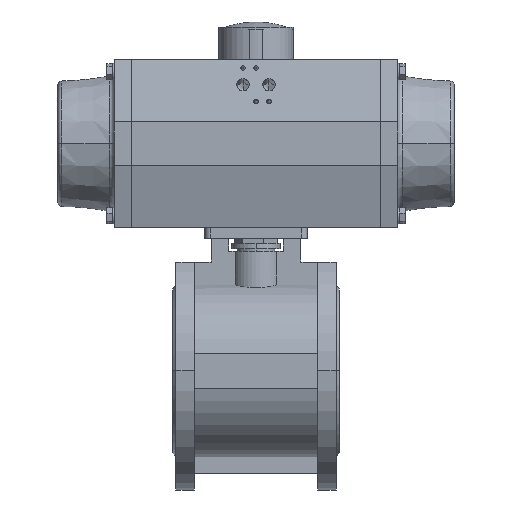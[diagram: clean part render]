
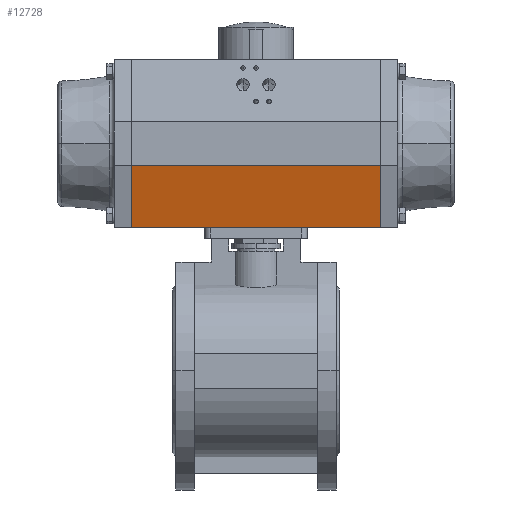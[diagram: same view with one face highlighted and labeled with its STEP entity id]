
A CAD part, top view. The second image highlights one B-rep face of the part: STEP entity #12728.
In plain terms, the highlighted planar face has unit normal (0, -0.252, 0.968) as drawn and (0.968, -0.252, 0) by its records, which use the part's own axes.
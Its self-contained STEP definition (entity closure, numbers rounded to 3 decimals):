
#782 = ORIENTED_EDGE ( 'NONE', *, *, #12358, .T. ) ;
#783 = ORIENTED_EDGE ( 'NONE', *, *, #12330, .F. ) ;
#784 = ORIENTED_EDGE ( 'NONE', *, *, #12359, .F. ) ;
#785 = ORIENTED_EDGE ( 'NONE', *, *, #12312, .T. ) ;
#1171 = CARTESIAN_POINT ( 'NONE',  ( 55., -77.5, 115. ) ) ;
#2177 = VECTOR ( 'NONE', #3322, 1000. ) ;
#2195 = VECTOR ( 'NONE', #3375, 1000. ) ;
#2237 = VECTOR ( 'NONE', #3457, 1000. ) ;
#2238 = VECTOR ( 'NONE', #3460, 1000. ) ;
#2756 = AXIS2_PLACEMENT_3D ( 'NONE', #4762, #4768, #4769 ) ;
#3319 = LINE ( 'NONE', #3321, #2177 ) ;
#3321 = CARTESIAN_POINT ( 'NONE',  ( 55., -77.5, -115. ) ) ;
#3322 = DIRECTION ( 'NONE',  ( 0.252, 0.968, 0. ) ) ;
#3373 = LINE ( 'NONE', #3374, #2195 ) ;
#3374 = CARTESIAN_POINT ( 'NONE',  ( 55., -77.5, 115. ) ) ;
#3375 = DIRECTION ( 'NONE',  ( 0.252, 0.968, 0. ) ) ;
#3455 = LINE ( 'NONE', #3456, #2237 ) ;
#3456 = CARTESIAN_POINT ( 'NONE',  ( 70., -20., -115. ) ) ;
#3457 = DIRECTION ( 'NONE',  ( 0., 0., 1. ) ) ;
#3458 = LINE ( 'NONE', #3459, #2238 ) ;
#3459 = CARTESIAN_POINT ( 'NONE',  ( 55., -77.5, -115. ) ) ;
#3460 = DIRECTION ( 'NONE',  ( 0., 0., 1. ) ) ;
#4760 = PLANE ( 'NONE',  #2756 ) ;
#4762 = CARTESIAN_POINT ( 'NONE',  ( 55., -77.5, -115. ) ) ;
#4766 = FACE_OUTER_BOUND ( 'NONE', #13849, .T. ) ;
#4768 = DIRECTION ( 'NONE',  ( 0.968, -0.252, 0. ) ) ;
#4769 = DIRECTION ( 'NONE',  ( 0.252, 0.968, 0. ) ) ;
#10589 = CARTESIAN_POINT ( 'NONE',  ( 70., -20., -115. ) ) ;
#10596 = CARTESIAN_POINT ( 'NONE',  ( 55., -77.5, -115. ) ) ;
#10630 = CARTESIAN_POINT ( 'NONE',  ( 70., -20., 115. ) ) ;
#11658 = VERTEX_POINT ( 'NONE', #1171 ) ;
#12312 = EDGE_CURVE ( 'NONE', #13592, #13585, #3319, .T. ) ;
#12330 = EDGE_CURVE ( 'NONE', #11658, #13626, #3373, .T. ) ;
#12358 = EDGE_CURVE ( 'NONE', #13585, #13626, #3455, .T. ) ;
#12359 = EDGE_CURVE ( 'NONE', #13592, #11658, #3458, .T. ) ;
#12728 = ADVANCED_FACE ( 'NONE', ( #4766 ), #4760, .T. ) ;
#13585 = VERTEX_POINT ( 'NONE', #10589 ) ;
#13592 = VERTEX_POINT ( 'NONE', #10596 ) ;
#13626 = VERTEX_POINT ( 'NONE', #10630 ) ;
#13849 = EDGE_LOOP ( 'NONE', ( #782, #783, #784, #785 ) ) ;
